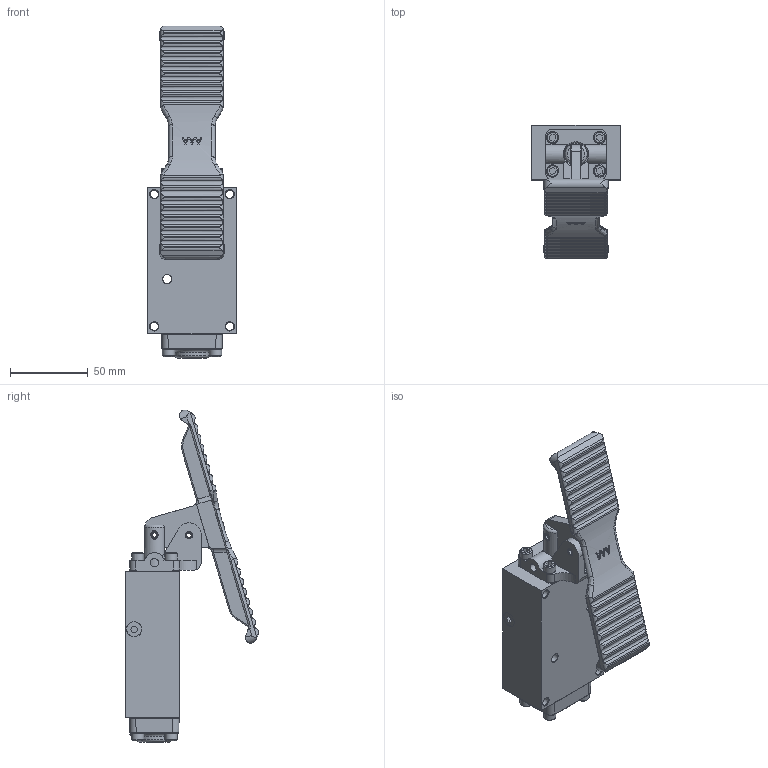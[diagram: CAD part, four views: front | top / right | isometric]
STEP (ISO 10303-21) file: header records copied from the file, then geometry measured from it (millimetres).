
FILE_DESCRIPTION(/* description */ (''),/* implementation_level */ '2;1');
FILE_NAME(/* name */ 'D:\Website Files\stp\Valves\Pedal\TY\ZNTY2.stp',/* time_stamp */ '2014-11-13T23:42:40-05:00',/* author */ ('RMcKenna'),/* organization */ (''),/* preprocessor_version */ 'ST-DEVELOPER v15.6',/* originating_system */ 'Autodesk Inventor 2015',/* authorisation */ '');
FILE_SCHEMA (('AUTOMOTIVE_DESIGN { 1 0 10303 214 3 1 1 }'));
Length unit declared in the file: centimetre
Products named in the file (1): Part66
Bounding box: 57.15 x 85.5 x 213.4 mm (x, y, z)
Volume: 230583.7 mm3; surface area: 77581.1 mm2
Topology: 1 solids, 23 shells, 1271 faces, 3149 edges, 2004 vertices
Faces by surface type: plane 543, cylinder 296, cone 249, torus 109, bspline 72, sphere 2
Full cylindrical faces by diameter (mm): 2.381 x1, 2.388 x2, 3.048 x1, 3.175 x3, 3.683 x10, 4.064 x1, 4.75 x2, 4.763 x2, 4.826 x9, 4.978 x4, 5.156 x12, 5.41 x1, 5.512 x1, 5.556 x2, 6.731 x1, 7.087 x3, 7.144 x1, 7.938 x8, 8.731 x2, 9.525 x2, 9.728 x1, 9.906 x1, 11.113 x4, 11.303 x3, 12.141 x1, 14.275 x1, 14.986 x1, 18.618 x1, 18.745 x12, 19.05 x2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
Entity records: 41699 total; most frequent: CARTESIAN_POINT 12248, ORIENTED_EDGE 5702, DIRECTION 5643, EDGE_CURVE 2850, AXIS2_PLACEMENT_3D 2169, VERTEX_POINT 1917, EDGE_LOOP 1628, LINE 1305
